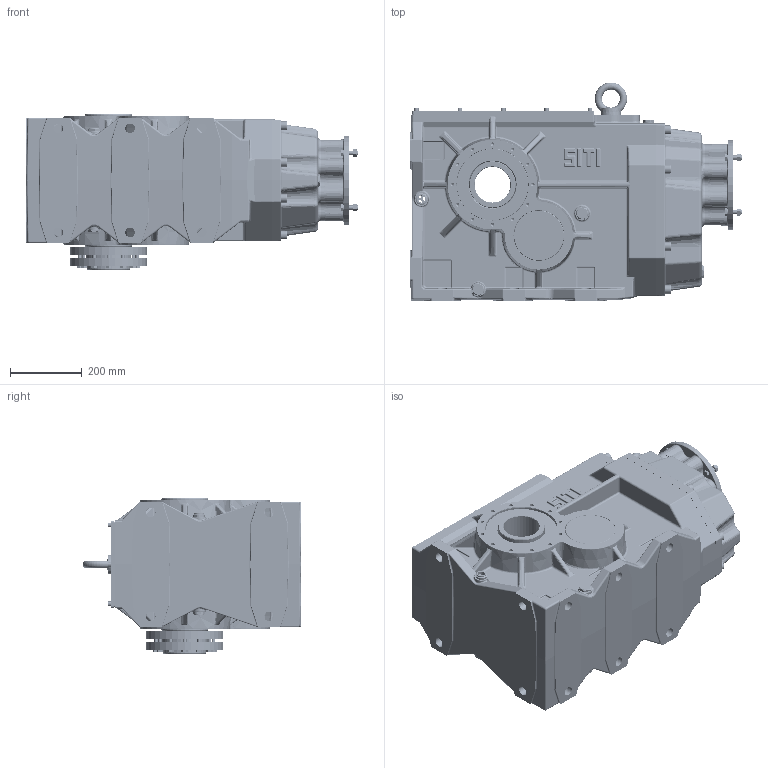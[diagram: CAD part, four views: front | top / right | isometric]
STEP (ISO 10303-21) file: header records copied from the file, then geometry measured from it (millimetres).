
FILE_DESCRIPTION((''),'2;1');
FILE_NAME('O:\Figurini\Figurini BH\3D\180\MBHGC 180 CC-A GR 100-112 B5.stp','2013-05-22T14:56:33',('d.iannaccio'),(''),'Autodesk Inventor 2012','Autodesk Inventor 2012','');
FILE_SCHEMA(('AUTOMOTIVE_DESIGN { 1 0 10303 214 1 1 1 1 }'));
Length unit declared in the file: millimetre
Products named in the file (1): MBHGC_180 CC-A GR 100-112 B5
Bounding box: 925.5 x 609.85 x 435 mm (x, y, z)
Volume: 38200985.2 mm3; surface area: 4573850 mm2
Topology: 3 solids, 63 shells, 4415 faces, 10444 edges, 6249 vertices
Faces by surface type: cylinder 1358, plane 1276, bspline 719, torus 448, cone 420, sphere 194
Full cylindrical faces by diameter (mm): 2.4 x1, 6.647 x13, 8 x25, 9 x12, 10 x30, 10.106 x24, 10.5 x2, 11 x24, 12 x24, 13 x20, 13.835 x8, 14 x4, 14.63 x12, 16 x8, 17 x9, 18 x9, 19.6 x1, 20 x2, 20.5 x8, 20.752 x2, 22 x1, 24 x8, 24.117 x8, 25 x1, 26 x1, 26.5 x2, 27 x10, 31 x7, 31.9 x1, 40 x1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
Entity records: 149029 total; most frequent: CARTESIAN_POINT 51111, DIRECTION 19266, ORIENTED_EDGE 18762, EDGE_CURVE 9381, AXIS2_PLACEMENT_3D 8005, VERTEX_POINT 5950, EDGE_LOOP 5440, STYLED_ITEM 4416
